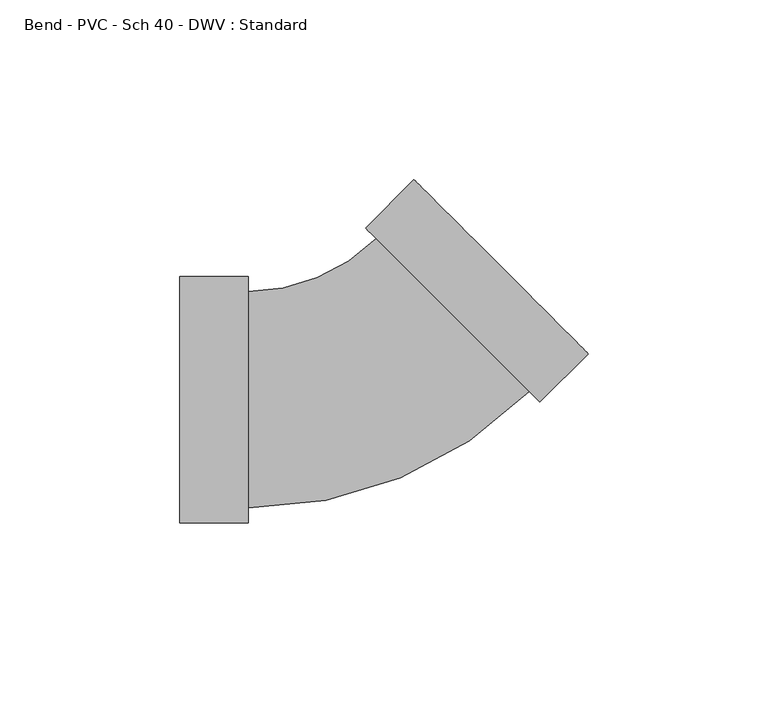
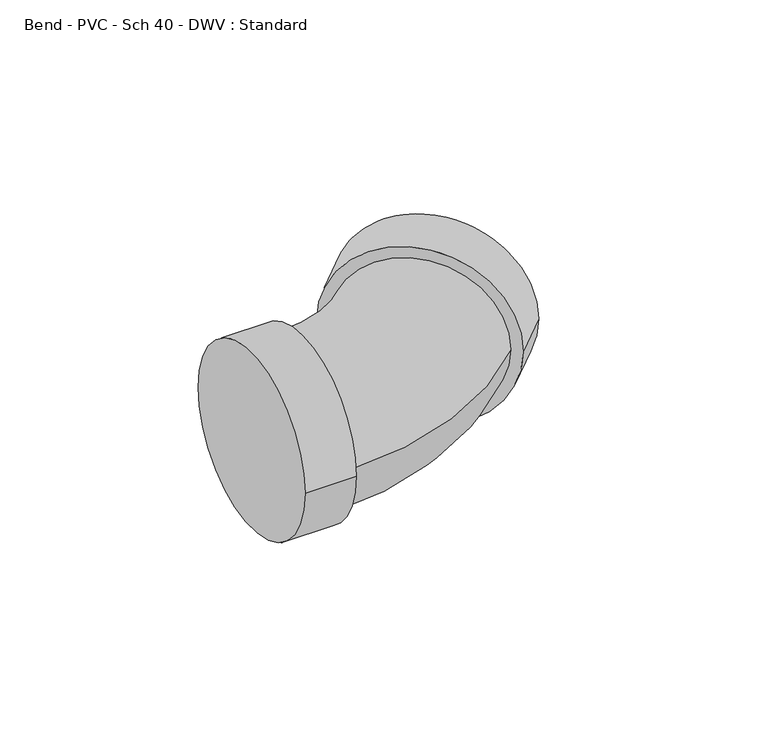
"""IFC4 building model written with IfcOpenShell, lengths in millimetres: pipe fitting geometry, Bend - PVC - Sch 40 - DWV : Standard."""

import ifcopenshell
import ifcopenshell.guid

model = None  # the IFC model being written
_history = None  # IfcOwnerHistory: only IFC2X3 demands one
_inside = {}  # id of a spatial element -> (the spatial element, [elements in it])
_under = {}  # id of a project, library or spatial element -> (it, [spatial elements below it])
_declared = {}  # id of a project -> (the project, [libraries it declares])
_typed = {}  # id of a type object -> (the type object, [elements of that type])
_made_of = {}  # id of a material, layer set ... -> (it, [elements and type objects made of it])


def new_model(schema):
    """Start an empty IFC model of exactly this schema.

    Asked for "IFC4X3", IfcOpenShell would pick the latest addendum, in which some entities
    have other attributes; the version numbers below select the first issue.
    IFC2X3 requires an IfcOwnerHistory on every rooted entity: one is made here for all.
    """
    global model, _history
    if schema == "IFC4X3":
        model = ifcopenshell.file(schema_version=(4, 3, 0, 0))
    else:
        model = ifcopenshell.file(schema=schema)
    _inside.clear()
    _under.clear()
    _declared.clear()
    _typed.clear()
    _made_of.clear()
    _history = None
    if model.schema == "IFC2X3":
        org = make("IfcOrganization", Name="unknown")
        user = make(
            "IfcPersonAndOrganization",
            ThePerson=make("IfcPerson", FamilyName="unknown"),
            TheOrganization=org,
        )
        app = make(
            "IfcApplication",
            ApplicationDeveloper=org,
            Version="unknown",
            ApplicationFullName="unknown",
            ApplicationIdentifier="unknown",
        )
        _history = make(
            "IfcOwnerHistory",
            OwningUser=user,
            OwningApplication=app,
            ChangeAction="ADDED",
            CreationDate=0,
        )
    return model


def make(cls, **values):
    """One entity of the class cls with the attributes given. An attribute that is None is left unset."""
    return model.create_entity(
        cls, **{name: value for name, value in values.items() if value is not None}
    )


def rooted(cls, **values):
    """An entity with a GlobalId (a new one), such as an element, a storey or a relation."""
    return make(cls, GlobalId=ifcopenshell.guid.new(), OwnerHistory=_history, **values)


def si_unit(unit_type, name, prefix=None):
    """IfcSIUnit, for example si_unit("LENGTHUNIT", "METRE", prefix="MILLI")."""
    return make("IfcSIUnit", UnitType=unit_type, Prefix=prefix, Name=name)


def assignment(units):
    """IfcUnitAssignment: the units of a project."""
    return None if units is None else make("IfcUnitAssignment", Units=units)


def point(xyz):
    """IfcCartesianPoint."""
    return None if xyz is None else make("IfcCartesianPoint", Coordinates=xyz)


def direction(xyz):
    """IfcDirection."""
    return None if xyz is None else make("IfcDirection", DirectionRatios=xyz)


def frame(location, z_axis=None, x_axis=None):
    """IfcAxis2Placement3D, a coordinate frame: its origin and axes. An axis left out is left unset."""
    return make(
        "IfcAxis2Placement3D",
        Location=point(location),
        Axis=direction(z_axis),
        RefDirection=direction(x_axis),
    )


def origin():
    """The frame at (0, 0, 0) with its axes left unset."""
    return frame((0.0, 0.0, 0.0))


def place(relative_to, where):
    """IfcLocalPlacement: puts the frame where relative to a parent placement (None: the world)."""
    return make(
        "IfcLocalPlacement", PlacementRelTo=relative_to, RelativePlacement=where
    )


def context(
    kind, dimensions, precision=None, world=None, true_north=None, identifier=None
):
    """IfcGeometricRepresentationContext, for example the 3D "Model" context."""
    return make(
        "IfcGeometricRepresentationContext",
        ContextIdentifier=identifier,
        ContextType=kind,
        CoordinateSpaceDimension=dimensions,
        Precision=precision,
        WorldCoordinateSystem=world,
        TrueNorth=true_north,
    )


def project(units=None, contexts=None):
    """IfcProject with its units and contexts."""
    return rooted(
        "IfcProject",
        Name="project",
        RepresentationContexts=contexts,
        UnitsInContext=assignment(units),
    )


def spatial(cls, under=None, at=None, **own):
    """A site, building, storey or space (cls), placed at a placement, below another one or the project."""
    s = rooted(cls, ObjectPlacement=at, **own)
    if under is not None:
        _under.setdefault(under.id(), (under, []))[1].append(s)
    return s


def circle_curve(where, radius):
    """IfcCircle in the frame where."""
    return make("IfcCircle", Position=where, Radius=radius)


def ellipse_curve(where, semi_axis1, semi_axis2):
    """IfcEllipse in the frame where."""
    return make(
        "IfcEllipse", Position=where, SemiAxis1=semi_axis1, SemiAxis2=semi_axis2
    )


def trimmed(basis, trim1, trim2, sense, master):
    """IfcTrimmedCurve: the piece of a basis curve between two trims."""
    return make(
        "IfcTrimmedCurve",
        BasisCurve=basis,
        Trim1=trim1,
        Trim2=trim2,
        SenseAgreement=sense,
        MasterRepresentation=master,
    )


def shape(context_of_items, identifier, shape_type, items):
    """IfcShapeRepresentation: the items that make up one representation, for example the "Body"."""
    return make(
        "IfcShapeRepresentation",
        ContextOfItems=context_of_items,
        RepresentationIdentifier=identifier,
        RepresentationType=shape_type,
        Items=items,
    )


def source(mapping_origin, context_of_items, identifier, shape_type, items):
    """IfcRepresentationMap: a shape defined once, which mapped items show again and again."""
    return make(
        "IfcRepresentationMap",
        MappingOrigin=mapping_origin,
        MappedRepresentation=shape(context_of_items, identifier, shape_type, items),
    )


def transform(
    local_origin,
    x_axis=None,
    y_axis=None,
    z_axis=None,
    scale=None,
    scale2=None,
    scale3=None,
    uniform=True,
):
    """IfcCartesianTransformationOperator3D, or its non-uniform kind. x_axis, y_axis, z_axis: its Axis1, 2, 3."""
    if uniform:
        return make(
            "IfcCartesianTransformationOperator3D",
            Axis1=direction(x_axis),
            Axis2=direction(y_axis),
            LocalOrigin=point(local_origin),
            Scale=scale,
            Axis3=direction(z_axis),
        )
    return make(
        "IfcCartesianTransformationOperator3DnonUniform",
        Axis1=direction(x_axis),
        Axis2=direction(y_axis),
        LocalOrigin=point(local_origin),
        Scale=scale,
        Axis3=direction(z_axis),
        Scale2=scale2,
        Scale3=scale3,
    )


def mapped(mapping_source, mapping_target):
    """IfcMappedItem: shows the shape of a source again, moved by a transform."""
    return make(
        "IfcMappedItem", MappingSource=mapping_source, MappingTarget=mapping_target
    )


def made_of(thing, what):
    """Note that an element or type object is made of a material, layer set ...; save() writes the relation."""
    if what is not None:
        _made_of.setdefault(what.id(), (what, []))[1].append(thing)
    return thing


def element(
    cls,
    number,
    at=None,
    inside=None,
    cuts=None,
    type_object=None,
    material=None,
    context=None,
    identifier="Body",
    shape_type=None,
    held_by="IfcProductDefinitionShape",
    body=None,
    shapes=None,
    **own,
):
    """One element of the class cls, such as IfcWall. Its Tag is "e" and its number.

    at: its placement. inside: the storey or other place that contains it. cuts: it is an
    opening in that element (IfcRelVoidsElement). A single representation is given by context,
    identifier, shape_type and body (its items); several are given by shapes. held_by: the class
    of the entity that holds the representations. save() writes the other relations.
    """
    e = rooted(cls, Tag="e%d" % number, ObjectPlacement=at, **own)
    if body is not None:
        shapes = [shape(context, identifier, shape_type, body)]
    if shapes is not None:
        e.Representation = make(held_by, Representations=shapes)
    if inside is not None:
        _inside.setdefault(inside.id(), (inside, []))[1].append(e)
    if cuts is not None:
        rooted(
            "IfcRelVoidsElement", RelatingBuildingElement=cuts, RelatedOpeningElement=e
        )
    if type_object is not None:
        _typed.setdefault(type_object.id(), (type_object, []))[1].append(e)
    return made_of(e, material)


def aggregate(whole, parts):
    """IfcRelAggregates: a whole, such as a stair, and the parts it consists of."""
    return rooted("IfcRelAggregates", RelatingObject=whole, RelatedObjects=parts)


def save(model, path):
    """Write the relations noted so far, then the file.

    IfcRelAggregates (storeys below a building ...), IfcRelContainedInSpatialStructure (elements
    in a storey), IfcRelDefinesByType, IfcRelAssociatesMaterial and IfcRelDeclares: one each for
    every whole, place, type object, material and project.
    """
    for whole, parts in _under.values():
        aggregate(whole, parts)
    for where, things in _inside.values():
        rooted(
            "IfcRelContainedInSpatialStructure",
            RelatedElements=things,
            RelatingStructure=where,
        )
    for kind, things in _typed.values():
        rooted("IfcRelDefinesByType", RelatedObjects=things, RelatingType=kind)
    for what, things in _made_of.values():
        rooted("IfcRelAssociatesMaterial", RelatedObjects=things, RelatingMaterial=what)
    for by, libraries in _declared.values():
        rooted("IfcRelDeclares", RelatingContext=by, RelatedDefinitions=libraries)
    model.write(path)


def plane_surface(at):
    """IfcPlane: the flat surface through the origin of the frame at, square to its z axis."""
    return make("IfcPlane", Position=at)


def cylinder_surface(at, radius):
    """IfcCylindricalSurface: all points at the distance radius from the z axis of the frame at."""
    return make("IfcCylindricalSurface", Position=at, Radius=radius)


def revolved_surface(curve, axis_point, axis_direction):
    """IfcSurfaceOfRevolution: the curve turned about the line through axis_point along axis_direction."""
    return make(
        "IfcSurfaceOfRevolution",
        SweptCurve=make("IfcArbitraryOpenProfileDef", ProfileType="CURVE", Curve=curve),
        AxisPosition=make("IfcAxis1Placement", Location=point(axis_point), Axis=direction(axis_direction)),
    )


def advanced_brep(points, edges, surfaces, faces):
    """IfcAdvancedBrep: a solid bounded by faces that lie on surfaces and meet in shared edges.

    An edge is (start, end): straight between two places in points (the first is 0);
    or (start, end, curve); or (start, end, curve, False) where it runs against its curve.
    A face is (place in surfaces, loops), or (place, loops, False) where it looks against
    its surface's normal. A loop lists edges by number (the first is 1), with a minus sign
    where the edge is run from its end to its start. The first loop is the outer one.
    """
    corners = [point(p) for p in points]
    vertices = [make("IfcVertexPoint", VertexGeometry=c) for c in corners]
    made = []
    for start, end, *more in edges:
        made.append(
            make(
                "IfcEdgeCurve",
                EdgeStart=vertices[start],
                EdgeEnd=vertices[end],
                EdgeGeometry=more[0] if more else make("IfcPolyline", Points=[corners[start], corners[end]]),
                SameSense=more[1] if len(more) > 1 else True,
            )
        )
    hull = []
    for where, loops, *sense in faces:
        bounds = []
        for j, loop in enumerate(loops):
            ring = [make("IfcOrientedEdge", EdgeElement=made[abs(k) - 1], Orientation=k > 0) for k in loop]
            bounds.append(
                make(
                    "IfcFaceOuterBound" if j == 0 else "IfcFaceBound",
                    Bound=make("IfcEdgeLoop", EdgeList=ring),
                    Orientation=True,
                )
            )
        hull.append(make("IfcAdvancedFace", Bounds=bounds, FaceSurface=surfaces[where], SameSense=sense[0] if sense else True))
    return make("IfcAdvancedBrep", Outer=make("IfcClosedShell", CfsFaces=hull))


def bend_pvc_sch_40_dwv_standard_a6ae3568(model_context):
    return source(origin(), model_context, "Body", "AdvancedBrep", [
        advanced_brep(
        [(-52.4002, -34.3154, 0.0), (-52.4002, 34.3154, 0.0), (-33.3502, -34.3154, 0.0), (-33.3502, 34.3154, 0.0), (-33.3502, -30.1625, 0.0), (-33.3502, 30.1625, 0.0), (2.2534195, 44.9102922, 0.0), (44.9102295, 2.2546691, 0.0), (47.8468141, -0.6818338, 0.0), (-0.6831651, 47.8467951, 0.0), (61.3170109, 12.7887377, 0.0), (12.7870317, 61.3173667, 0.0)],
        [
            (0, 1, circle_curve(frame((-52.4002, 0.0, 0.0), z_axis=(-1.0, 0.0, 0.0), x_axis=(0.0, 1.0, 0.0)), 34.3154)),
            (1, 0, circle_curve(frame((-52.4002, 0.0, 0.0), z_axis=(-1.0, 0.0, 0.0), x_axis=(0.0, 1.0, 0.0)), 34.3154)),
            (2, 3, circle_curve(frame((-33.3502, 0.0, 0.0), z_axis=(1.0, 0.0, 0.0), x_axis=(0.0, 1.0, 0.0)), 34.3154)),
            (3, 2, circle_curve(frame((-33.3502, 0.0, 0.0), z_axis=(1.0, 0.0, 0.0), x_axis=(0.0, 1.0, 0.0)), 34.3154)),
            (4, 5, circle_curve(frame((-33.3502, 0.0, 0.0), z_axis=(-1.0, 0.0, 0.0), x_axis=(0.0, 1.0, 0.0)), 30.1625)),
            (5, 4, circle_curve(frame((-33.3502, 0.0, 0.0), z_axis=(-1.0, 0.0, 0.0), x_axis=(0.0, 1.0, 0.0)), 30.1625)),
            (0, 2),
            (3, 1),
            (6, 5, circle_curve(frame((-33.3502, 80.5129211, 0.0), z_axis=(0.0, 0.0, -1.0), x_axis=(0.0, -1.0, 0.0)), 50.3504211)),
            (4, 7, circle_curve(frame((-33.3502, 80.5129211, 0.0), z_axis=(0.0, 0.0, 1.0), x_axis=(0.0, -1.0, 0.0)), 110.6754211)),
            (7, 6, circle_curve(frame((23.5818245, 23.5824806, 0.0), z_axis=(-0.70709694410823, -0.7071166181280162, 0.0), x_axis=(-0.7071166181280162, 0.70709694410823, 0.0)), 30.1625)),
            (6, 7, circle_curve(frame((23.5818245, 23.5824806, 0.0), z_axis=(-0.70709694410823, -0.7071166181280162, 0.0), x_axis=(-0.7071166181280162, 0.70709694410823, 0.0)), 30.1625)),
            (8, 9, circle_curve(frame((23.5818245, 23.5824806, 0.0), z_axis=(-0.7070969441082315, -0.7071166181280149, 0.0), x_axis=(-0.7071166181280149, 0.7070969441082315, 0.0)), 34.3154)),
            (9, 8, circle_curve(frame((23.5818245, 23.5824806, 0.0), z_axis=(-0.7070969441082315, -0.7071166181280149, 0.0), x_axis=(-0.7071166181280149, 0.7070969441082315, 0.0)), 34.3154)),
            (10, 11, circle_curve(frame((37.0520213, 37.0530522, 0.0), z_axis=(0.7070969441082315, 0.7071166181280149, 0.0), x_axis=(-0.7071166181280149, 0.7070969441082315, 0.0)), 34.3154)),
            (11, 10, circle_curve(frame((37.0520213, 37.0530522, 0.0), z_axis=(0.7070969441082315, 0.7071166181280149, 0.0), x_axis=(-0.7071166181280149, 0.7070969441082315, 0.0)), 34.3154)),
            (8, 10),
            (11, 9),
        ],
        [
            plane_surface(frame((-52.4002, 0.0, 0.0), z_axis=(-1.0, 0.0, 0.0), x_axis=(0.0, 0.0, 1.0))),
            plane_surface(frame((-33.3502, 0.0, 0.0), z_axis=(1.0, 0.0, 0.0), x_axis=(0.0, 0.0, 1.0))),
            cylinder_surface(frame((-52.4002, 0.0, 0.0), z_axis=(-1.0, 0.0, 0.0), x_axis=(0.0, 1.0, 0.0)), 34.3154),
            revolved_surface(trimmed(ellipse_curve(frame((-33.3502, 0.0, 0.0), z_axis=(-1.0, 0.0, 0.0), x_axis=(0.0, 1.0, 0.0)), 30.1625, 30.1625), [point((-33.3502, -30.1625, 0.0))], [point((-33.3502, 30.1625, 0.0))], True, "CARTESIAN"), (-33.3502, 80.5129211, 0.0), (0.0, 0.0, 1.0)),
            revolved_surface(trimmed(ellipse_curve(frame((-33.3502, 0.0, 0.0), z_axis=(-1.0, 0.0, 0.0), x_axis=(0.0, 1.0, 0.0)), 30.1625, 30.1625), [point((-33.3502, 30.1625, 0.0))], [point((-33.3502, -30.1625, 0.0))], True, "CARTESIAN"), (-33.3502, 80.5129211, 0.0), (0.0, 0.0, 1.0)),
            plane_surface(frame((23.5818245, 23.5824806, 0.0), z_axis=(-0.7070969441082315, -0.7071166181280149, 0.0), x_axis=(0.0, 0.0, 1.0))),
            plane_surface(frame((37.0520213, 37.0530522, 0.0), z_axis=(0.7070969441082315, 0.7071166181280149, 0.0), x_axis=(0.0, 0.0, 1.0))),
            cylinder_surface(frame((23.5818245, 23.5824806, 0.0), z_axis=(-0.7070969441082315, -0.7071166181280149, 0.0), x_axis=(-0.7071166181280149, 0.7070969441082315, 0.0)), 34.3154),
        ],
        [
            (0, [[1, 2]]),
            (1, [[3, 4], [5, 6]]),
            (2, [[-1, 7, -4, 8]]),
            (2, [[-2, -8, -3, -7]]),
            (3, [[9, -5, 10, 11]]),
            (4, [[-9, 12, -10, -6]]),
            (5, [[13, 14], [-11, -12]]),
            (6, [[15, 16]]),
            (7, [[-13, 17, -16, 18]]),
            (7, [[-14, -18, -15, -17]]),
        ],
    ),
    ])


if __name__ == "__main__":
    model = new_model("IFC4")
    model_context = context("Model", 3, world=origin())
    ifc_project = project(units=[si_unit("LENGTHUNIT", "METRE", prefix="MILLI")], contexts=[model_context])
    site = spatial("IfcSite", under=ifc_project)
    building = spatial("IfcBuilding", under=site)
    placement = place(None, origin())
    bend_pvc_sch_40_dwv_standard_shape = bend_pvc_sch_40_dwv_standard_a6ae3568(model_context)
    element("IfcPipeFitting", 1, ObjectType="Bend - PVC - Sch 40 - DWV : Standard", at=placement, inside=building, context=model_context, shape_type="MappedRepresentation", body=[
        mapped(bend_pvc_sch_40_dwv_standard_shape, transform((0.0, 0.0, 0.0), x_axis=(1.0, 0.0, 0.0), y_axis=(0.0, 1.0, 0.0), z_axis=(0.0, 0.0, 1.0))),
    ])
    save(model, "model.ifc")
